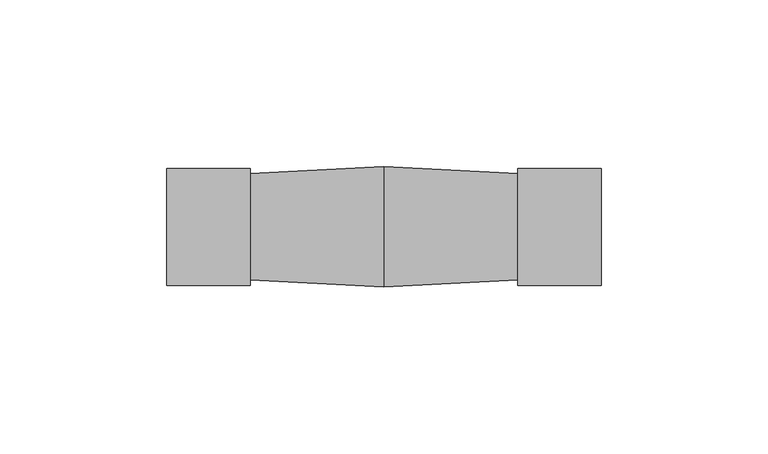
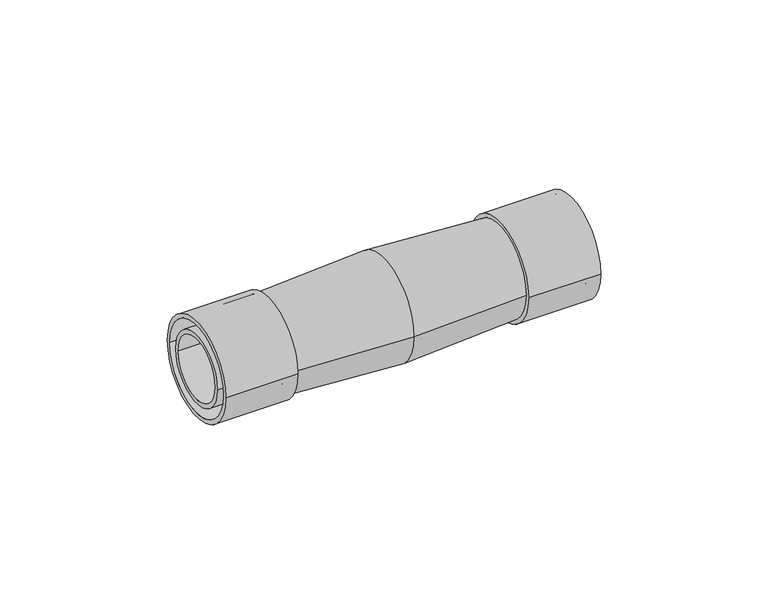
"""IFC4 building model written with IfcOpenShell, lengths in millimetres: cable carrier fitting geometry, КНС_МуфтаДляАрмированныхТруб_IP65_DKC : Коробка."""

import ifcopenshell
import ifcopenshell.guid

model = None  # the IFC model being written
_history = None  # IfcOwnerHistory: only IFC2X3 demands one
_inside = {}  # id of a spatial element -> (the spatial element, [elements in it])
_under = {}  # id of a project, library or spatial element -> (it, [spatial elements below it])
_declared = {}  # id of a project -> (the project, [libraries it declares])
_typed = {}  # id of a type object -> (the type object, [elements of that type])
_made_of = {}  # id of a material, layer set ... -> (it, [elements and type objects made of it])


def new_model(schema):
    """Start an empty IFC model of exactly this schema.

    Asked for "IFC4X3", IfcOpenShell would pick the latest addendum, in which some entities
    have other attributes; the version numbers below select the first issue.
    IFC2X3 requires an IfcOwnerHistory on every rooted entity: one is made here for all.
    """
    global model, _history
    if schema == "IFC4X3":
        model = ifcopenshell.file(schema_version=(4, 3, 0, 0))
    else:
        model = ifcopenshell.file(schema=schema)
    _inside.clear()
    _under.clear()
    _declared.clear()
    _typed.clear()
    _made_of.clear()
    _history = None
    if model.schema == "IFC2X3":
        org = make("IfcOrganization", Name="unknown")
        user = make(
            "IfcPersonAndOrganization",
            ThePerson=make("IfcPerson", FamilyName="unknown"),
            TheOrganization=org,
        )
        app = make(
            "IfcApplication",
            ApplicationDeveloper=org,
            Version="unknown",
            ApplicationFullName="unknown",
            ApplicationIdentifier="unknown",
        )
        _history = make(
            "IfcOwnerHistory",
            OwningUser=user,
            OwningApplication=app,
            ChangeAction="ADDED",
            CreationDate=0,
        )
    return model


def make(cls, **values):
    """One entity of the class cls with the attributes given. An attribute that is None is left unset."""
    return model.create_entity(
        cls, **{name: value for name, value in values.items() if value is not None}
    )


def rooted(cls, **values):
    """An entity with a GlobalId (a new one), such as an element, a storey or a relation."""
    return make(cls, GlobalId=ifcopenshell.guid.new(), OwnerHistory=_history, **values)


def si_unit(unit_type, name, prefix=None):
    """IfcSIUnit, for example si_unit("LENGTHUNIT", "METRE", prefix="MILLI")."""
    return make("IfcSIUnit", UnitType=unit_type, Prefix=prefix, Name=name)


def assignment(units):
    """IfcUnitAssignment: the units of a project."""
    return None if units is None else make("IfcUnitAssignment", Units=units)


def point(xyz):
    """IfcCartesianPoint."""
    return None if xyz is None else make("IfcCartesianPoint", Coordinates=xyz)


def direction(xyz):
    """IfcDirection."""
    return None if xyz is None else make("IfcDirection", DirectionRatios=xyz)


def frame(location, z_axis=None, x_axis=None):
    """IfcAxis2Placement3D, a coordinate frame: its origin and axes. An axis left out is left unset."""
    return make(
        "IfcAxis2Placement3D",
        Location=point(location),
        Axis=direction(z_axis),
        RefDirection=direction(x_axis),
    )


def frame_2d(location, x_axis=None):
    """IfcAxis2Placement2D, a coordinate frame in the plane: its origin and x axis."""
    return make(
        "IfcAxis2Placement2D", Location=point(location), RefDirection=direction(x_axis)
    )


def origin():
    """The frame at (0, 0, 0) with its axes left unset."""
    return frame((0.0, 0.0, 0.0))


def origin_2d():
    """The frame at (0, 0) in the plane with its x axis left unset."""
    return frame_2d((0.0, 0.0))


def place(relative_to, where):
    """IfcLocalPlacement: puts the frame where relative to a parent placement (None: the world)."""
    return make(
        "IfcLocalPlacement", PlacementRelTo=relative_to, RelativePlacement=where
    )


def context(
    kind, dimensions, precision=None, world=None, true_north=None, identifier=None
):
    """IfcGeometricRepresentationContext, for example the 3D "Model" context."""
    return make(
        "IfcGeometricRepresentationContext",
        ContextIdentifier=identifier,
        ContextType=kind,
        CoordinateSpaceDimension=dimensions,
        Precision=precision,
        WorldCoordinateSystem=world,
        TrueNorth=true_north,
    )


def project(units=None, contexts=None):
    """IfcProject with its units and contexts."""
    return rooted(
        "IfcProject",
        Name="project",
        RepresentationContexts=contexts,
        UnitsInContext=assignment(units),
    )


def spatial(cls, under=None, at=None, **own):
    """A site, building, storey or space (cls), placed at a placement, below another one or the project."""
    s = rooted(cls, ObjectPlacement=at, **own)
    if under is not None:
        _under.setdefault(under.id(), (under, []))[1].append(s)
    return s


def polyline(points):
    """IfcPolyline through the points."""
    return make("IfcPolyline", Points=[point(p) for p in points])


def circle_curve(where, radius):
    """IfcCircle in the frame where."""
    return make("IfcCircle", Position=where, Radius=radius)


def trimmed(basis, trim1, trim2, sense, master):
    """IfcTrimmedCurve: the piece of a basis curve between two trims."""
    return make(
        "IfcTrimmedCurve",
        BasisCurve=basis,
        Trim1=trim1,
        Trim2=trim2,
        SenseAgreement=sense,
        MasterRepresentation=master,
    )


def segment(curve, same_sense, transition):
    """IfcCompositeCurveSegment."""
    return make(
        "IfcCompositeCurveSegment",
        Transition=transition,
        SameSense=same_sense,
        ParentCurve=curve,
    )


def composite_curve(segments, self_intersect=None):
    """IfcCompositeCurve: segments joined end to end."""
    return make("IfcCompositeCurve", Segments=segments, SelfIntersect=self_intersect)


def outline(outer, holes=None, kind="AREA"):
    """IfcArbitraryClosedProfileDef: a profile drawn as a closed curve; with holes, ...WithVoids."""
    if holes is None:
        return make("IfcArbitraryClosedProfileDef", ProfileType=kind, OuterCurve=outer)
    return make(
        "IfcArbitraryProfileDefWithVoids",
        ProfileType=kind,
        OuterCurve=outer,
        InnerCurves=holes,
    )


def extrude(swept, where, along, depth):
    """IfcExtrudedAreaSolid: the profile swept, set in the frame where, extruded along a direction by depth."""
    return make(
        "IfcExtrudedAreaSolid",
        SweptArea=swept,
        Position=where,
        ExtrudedDirection=direction(along),
        Depth=depth,
    )


def shape(context_of_items, identifier, shape_type, items):
    """IfcShapeRepresentation: the items that make up one representation, for example the "Body"."""
    return make(
        "IfcShapeRepresentation",
        ContextOfItems=context_of_items,
        RepresentationIdentifier=identifier,
        RepresentationType=shape_type,
        Items=items,
    )


def source(mapping_origin, context_of_items, identifier, shape_type, items):
    """IfcRepresentationMap: a shape defined once, which mapped items show again and again."""
    return make(
        "IfcRepresentationMap",
        MappingOrigin=mapping_origin,
        MappedRepresentation=shape(context_of_items, identifier, shape_type, items),
    )


def transform(
    local_origin,
    x_axis=None,
    y_axis=None,
    z_axis=None,
    scale=None,
    scale2=None,
    scale3=None,
    uniform=True,
):
    """IfcCartesianTransformationOperator3D, or its non-uniform kind. x_axis, y_axis, z_axis: its Axis1, 2, 3."""
    if uniform:
        return make(
            "IfcCartesianTransformationOperator3D",
            Axis1=direction(x_axis),
            Axis2=direction(y_axis),
            LocalOrigin=point(local_origin),
            Scale=scale,
            Axis3=direction(z_axis),
        )
    return make(
        "IfcCartesianTransformationOperator3DnonUniform",
        Axis1=direction(x_axis),
        Axis2=direction(y_axis),
        LocalOrigin=point(local_origin),
        Scale=scale,
        Axis3=direction(z_axis),
        Scale2=scale2,
        Scale3=scale3,
    )


def mapped(mapping_source, mapping_target):
    """IfcMappedItem: shows the shape of a source again, moved by a transform."""
    return make(
        "IfcMappedItem", MappingSource=mapping_source, MappingTarget=mapping_target
    )


def made_of(thing, what):
    """Note that an element or type object is made of a material, layer set ...; save() writes the relation."""
    if what is not None:
        _made_of.setdefault(what.id(), (what, []))[1].append(thing)
    return thing


def element(
    cls,
    number,
    at=None,
    inside=None,
    cuts=None,
    type_object=None,
    material=None,
    context=None,
    identifier="Body",
    shape_type=None,
    held_by="IfcProductDefinitionShape",
    body=None,
    shapes=None,
    **own,
):
    """One element of the class cls, such as IfcWall. Its Tag is "e" and its number.

    at: its placement. inside: the storey or other place that contains it. cuts: it is an
    opening in that element (IfcRelVoidsElement). A single representation is given by context,
    identifier, shape_type and body (its items); several are given by shapes. held_by: the class
    of the entity that holds the representations. save() writes the other relations.
    """
    e = rooted(cls, Tag="e%d" % number, ObjectPlacement=at, **own)
    if body is not None:
        shapes = [shape(context, identifier, shape_type, body)]
    if shapes is not None:
        e.Representation = make(held_by, Representations=shapes)
    if inside is not None:
        _inside.setdefault(inside.id(), (inside, []))[1].append(e)
    if cuts is not None:
        rooted(
            "IfcRelVoidsElement", RelatingBuildingElement=cuts, RelatedOpeningElement=e
        )
    if type_object is not None:
        _typed.setdefault(type_object.id(), (type_object, []))[1].append(e)
    return made_of(e, material)


def aggregate(whole, parts):
    """IfcRelAggregates: a whole, such as a stair, and the parts it consists of."""
    return rooted("IfcRelAggregates", RelatingObject=whole, RelatedObjects=parts)


def save(model, path):
    """Write the relations noted so far, then the file.

    IfcRelAggregates (storeys below a building ...), IfcRelContainedInSpatialStructure (elements
    in a storey), IfcRelDefinesByType, IfcRelAssociatesMaterial and IfcRelDeclares: one each for
    every whole, place, type object, material and project.
    """
    for whole, parts in _under.values():
        aggregate(whole, parts)
    for where, things in _inside.values():
        rooted(
            "IfcRelContainedInSpatialStructure",
            RelatedElements=things,
            RelatingStructure=where,
        )
    for kind, things in _typed.values():
        rooted("IfcRelDefinesByType", RelatedObjects=things, RelatingType=kind)
    for what, things in _made_of.values():
        rooted("IfcRelAssociatesMaterial", RelatedObjects=things, RelatingMaterial=what)
    for by, libraries in _declared.values():
        rooted("IfcRelDeclares", RelatingContext=by, RelatedDefinitions=libraries)
    model.write(path)


def plane_surface(at):
    """IfcPlane: the flat surface through the origin of the frame at, square to its z axis."""
    return make("IfcPlane", Position=at)


def revolved_surface(curve, axis_point, axis_direction):
    """IfcSurfaceOfRevolution: the curve turned about the line through axis_point along axis_direction."""
    return make(
        "IfcSurfaceOfRevolution",
        SweptCurve=make("IfcArbitraryOpenProfileDef", ProfileType="CURVE", Curve=curve),
        AxisPosition=make("IfcAxis1Placement", Location=point(axis_point), Axis=direction(axis_direction)),
    )


def advanced_brep(points, edges, surfaces, faces):
    """IfcAdvancedBrep: a solid bounded by faces that lie on surfaces and meet in shared edges.

    An edge is (start, end): straight between two places in points (the first is 0);
    or (start, end, curve); or (start, end, curve, False) where it runs against its curve.
    A face is (place in surfaces, loops), or (place, loops, False) where it looks against
    its surface's normal. A loop lists edges by number (the first is 1), with a minus sign
    where the edge is run from its end to its start. The first loop is the outer one.
    """
    corners = [point(p) for p in points]
    vertices = [make("IfcVertexPoint", VertexGeometry=c) for c in corners]
    made = []
    for start, end, *more in edges:
        made.append(
            make(
                "IfcEdgeCurve",
                EdgeStart=vertices[start],
                EdgeEnd=vertices[end],
                EdgeGeometry=more[0] if more else make("IfcPolyline", Points=[corners[start], corners[end]]),
                SameSense=more[1] if len(more) > 1 else True,
            )
        )
    hull = []
    for where, loops, *sense in faces:
        bounds = []
        for j, loop in enumerate(loops):
            ring = [make("IfcOrientedEdge", EdgeElement=made[abs(k) - 1], Orientation=k > 0) for k in loop]
            bounds.append(
                make(
                    "IfcFaceOuterBound" if j == 0 else "IfcFaceBound",
                    Bound=make("IfcEdgeLoop", EdgeList=ring),
                    Orientation=True,
                )
            )
        hull.append(make("IfcAdvancedFace", Bounds=bounds, FaceSurface=surfaces[where], SameSense=sense[0] if sense else True))
    return make("IfcAdvancedBrep", Outer=make("IfcClosedShell", CfsFaces=hull))


def cable_carrier_fitting_ab0d7205(model_context):
    return source(origin(), model_context, "Body", "SolidModel", [
        advanced_brep(
        [(-40.0, -16.0, 0.0), (-40.0, 16.0, 0.0), (0.0, 18.0, 0.0), (0.0, -18.0, 0.0), (-40.0, 0.0, 0.0), (40.0, -16.0, 0.0), (40.0, 16.0, 0.0), (40.0, 0.0, 0.0)],
        [
            (0, 1, circle_curve(frame((-40.0, 0.0, 0.0), z_axis=(1.0, 0.0, 0.0), x_axis=(0.0, 1.0, 0.0)), 16.0)),
            (1, 2),
            (2, 3, circle_curve(frame((0.0, 0.0, 0.0), z_axis=(-1.0, 0.0, 0.0), x_axis=(0.0, 1.0, 0.0)), 18.0)),
            (3, 0),
            (1, 0, circle_curve(frame((-40.0, 0.0, 0.0), z_axis=(1.0, 0.0, 0.0), x_axis=(0.0, 1.0, 0.0)), 16.0)),
            (3, 2, circle_curve(frame((0.0, 0.0, 0.0), z_axis=(-1.0, 0.0, 0.0), x_axis=(0.0, 1.0, 0.0)), 18.0)),
            (4, 1),
            (0, 4),
            (5, 6, circle_curve(frame((40.0, 0.0, 0.0), z_axis=(1.0, 0.0, 0.0), x_axis=(0.0, 1.0, 0.0)), 16.0)),
            (6, 7),
            (7, 5),
            (6, 5, circle_curve(frame((40.0, 0.0, 0.0), z_axis=(1.0, 0.0, 0.0), x_axis=(0.0, 1.0, 0.0)), 16.0)),
            (2, 6),
            (5, 3),
        ],
        [
            revolved_surface(polyline([(0.0, 18.0, 0.0), (-40.0, 16.0, 0.0)]), (1516.0, 0.0, 0.0), (-1.0, 0.0, 0.0)),
            plane_surface(frame((-40.0, 0.0, 0.0), z_axis=(-1.0, 0.0, 0.0), x_axis=(0.0, 1.0, 0.0))),
            plane_surface(frame((40.0, 0.0, 0.0), z_axis=(1.0, 0.0, 0.0), x_axis=(0.0, 1.0, 0.0))),
            revolved_surface(polyline([(40.0, 16.0, 0.0), (0.0, 18.0, 0.0)]), (1516.0, 0.0, 0.0), (-1.0, 0.0, 0.0)),
        ],
        [
            (0, [[1, 2, 3, 4]]),
            (0, [[5, -4, 6, -2]]),
            (1, [[7, -1, 8]]),
            (1, [[-8, -5, -7]]),
            (2, [[9, 10, 11]]),
            (2, [[12, -11, -10]]),
            (3, [[-3, 13, -9, 14]]),
            (3, [[-6, -14, -12, -13]]),
        ],
    ),
        extrude(outline(composite_curve([segment(trimmed(circle_curve(origin_2d(), 12.5), [point((-12.5, 0.0))], [point((12.5, 0.0))], False, "CARTESIAN"), True, "CONTINUOUS"), segment(trimmed(circle_curve(origin_2d(), 12.5), [point((12.5, 0.0))], [point((-12.5, 0.0))], False, "CARTESIAN"), True, "CONTINUOUS")], self_intersect=False), holes=[composite_curve([segment(trimmed(circle_curve(origin_2d(), 11.0), [point((-11.0, 0.0))], [point((11.0, 0.0))], True, "CARTESIAN"), True, "CONTINUOUS"), segment(trimmed(circle_curve(origin_2d(), 11.0), [point((11.0, 0.0))], [point((-11.0, 0.0))], True, "CARTESIAN"), True, "CONTINUOUS")], self_intersect=False)]), frame((-65.0, 0.0, 0.0), z_axis=(1.0, 0.0, 0.0), x_axis=(0.0, 1.0, 0.0)), (0.0, 0.0, 1.0), 25.0),
        extrude(outline(composite_curve([segment(trimmed(circle_curve(origin_2d(), 17.5), [point((-17.5, 0.0))], [point((17.5, 0.0))], False, "CARTESIAN"), True, "CONTINUOUS"), segment(trimmed(circle_curve(origin_2d(), 17.5), [point((17.5, 0.0))], [point((-17.5, 0.0))], False, "CARTESIAN"), True, "CONTINUOUS")], self_intersect=False), holes=[composite_curve([segment(trimmed(circle_curve(origin_2d(), 16.0), [point((-16.0, 0.0))], [point((16.0, 0.0))], True, "CARTESIAN"), True, "CONTINUOUS"), segment(trimmed(circle_curve(origin_2d(), 16.0), [point((16.0, 0.0))], [point((-16.0, 0.0))], True, "CARTESIAN"), True, "CONTINUOUS")], self_intersect=False)]), frame((-65.0, 0.0, 0.0), z_axis=(1.0, 0.0, 0.0), x_axis=(0.0, 1.0, 0.0)), (0.0, 0.0, 1.0), 25.0),
        extrude(outline(composite_curve([segment(trimmed(circle_curve(origin_2d(), 17.5), [point((-17.5, 0.0))], [point((17.5, 0.0))], False, "CARTESIAN"), True, "CONTINUOUS"), segment(trimmed(circle_curve(origin_2d(), 17.5), [point((17.5, 0.0))], [point((-17.5, 0.0))], False, "CARTESIAN"), True, "CONTINUOUS")], self_intersect=False), holes=[composite_curve([segment(trimmed(circle_curve(origin_2d(), 16.0), [point((-16.0, 0.0))], [point((16.0, 0.0))], True, "CARTESIAN"), True, "CONTINUOUS"), segment(trimmed(circle_curve(origin_2d(), 16.0), [point((16.0, 0.0))], [point((-16.0, 0.0))], True, "CARTESIAN"), True, "CONTINUOUS")], self_intersect=False)]), frame((40.0, 0.0, 0.0), z_axis=(1.0, 0.0, 0.0), x_axis=(0.0, 1.0, 0.0)), (0.0, 0.0, 1.0), 25.0),
        extrude(outline(composite_curve([segment(trimmed(circle_curve(origin_2d(), 12.5), [point((-12.5, 0.0))], [point((12.5, 0.0))], False, "CARTESIAN"), True, "CONTINUOUS"), segment(trimmed(circle_curve(origin_2d(), 12.5), [point((12.5, 0.0))], [point((-12.5, 0.0))], False, "CARTESIAN"), True, "CONTINUOUS")], self_intersect=False), holes=[composite_curve([segment(trimmed(circle_curve(origin_2d(), 11.0), [point((-11.0, 0.0))], [point((11.0, 0.0))], True, "CARTESIAN"), True, "CONTINUOUS"), segment(trimmed(circle_curve(origin_2d(), 11.0), [point((11.0, 0.0))], [point((-11.0, 0.0))], True, "CARTESIAN"), True, "CONTINUOUS")], self_intersect=False)]), frame((40.0, 0.0, 0.0), z_axis=(1.0, 0.0, 0.0), x_axis=(0.0, 1.0, 0.0)), (0.0, 0.0, 1.0), 25.0),
    ])


if __name__ == "__main__":
    model = new_model("IFC4")
    model_context = context("Model", 3, world=origin())
    ifc_project = project(units=[si_unit("LENGTHUNIT", "METRE", prefix="MILLI")], contexts=[model_context])
    site = spatial("IfcSite", under=ifc_project)
    building = spatial("IfcBuilding", under=site)
    placement = place(None, origin())
    cable_carrier_fitting_shape = cable_carrier_fitting_ab0d7205(model_context)
    element("IfcCableCarrierFitting", 1, ObjectType="КНС_МуфтаДляАрмированныхТруб_IP65_DKC : Коробка", at=placement, inside=building, context=model_context, shape_type="MappedRepresentation", body=[
        mapped(cable_carrier_fitting_shape, transform((0.0, 0.0, 0.0), x_axis=(1.0, 0.0, 0.0), y_axis=(0.0, 1.0, 0.0), z_axis=(0.0, 0.0, 1.0))),
    ])
    save(model, "model.ifc")
